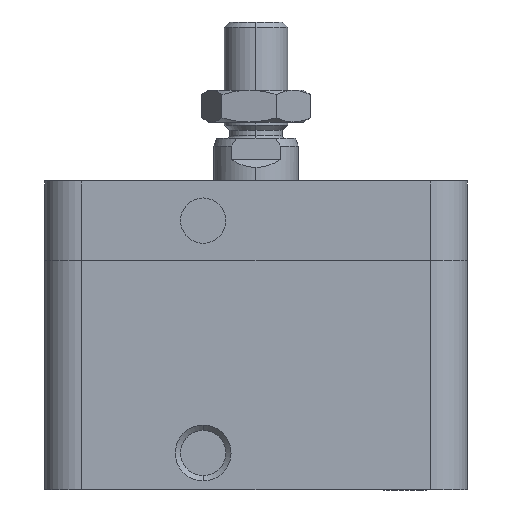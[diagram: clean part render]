
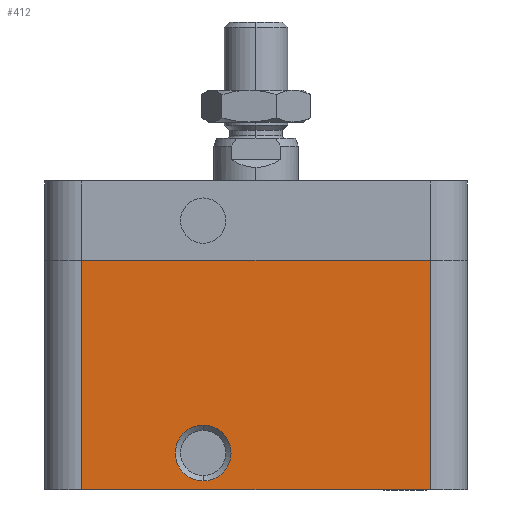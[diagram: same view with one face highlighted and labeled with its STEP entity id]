
A CAD part, left-side view. The second image highlights one B-rep face of the part: STEP entity #412.
In plain terms, the highlighted planar face has unit normal (-1, 0, 0).
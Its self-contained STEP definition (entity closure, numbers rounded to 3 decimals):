
#412 = ADVANCED_FACE ( 'NONE', ( #11638, #1028 ), #6650, .F. ) ;
#546 = LINE ( 'NONE', #12831, #9131 ) ;
#782 = ORIENTED_EDGE ( 'NONE', *, *, #8784, .T. ) ;
#829 = ORIENTED_EDGE ( 'NONE', *, *, #8473, .F. ) ;
#1017 = DIRECTION ( 'NONE',  ( 0., 0., -1. ) ) ;
#1028 = FACE_OUTER_BOUND ( 'NONE', #2125, .T. ) ;
#1075 = VERTEX_POINT ( 'NONE', #13524 ) ;
#1584 = CARTESIAN_POINT ( 'NONE',  ( -40., 10., 7. ) ) ;
#1987 = EDGE_CURVE ( 'NONE', #4899, #1075, #4086, .T. ) ;
#2061 = CARTESIAN_POINT ( 'NONE',  ( -40., -33., 43.5 ) ) ;
#2125 = EDGE_LOOP ( 'NONE', ( #6041, #829, #12459, #782 ) ) ;
#2241 = CARTESIAN_POINT ( 'NONE',  ( -40., 33., 43.5 ) ) ;
#2305 = CARTESIAN_POINT ( 'NONE',  ( -40., 10., 12.283 ) ) ;
#2358 = DIRECTION ( 'NONE',  ( -1., 0., 0. ) ) ;
#2680 = DIRECTION ( 'NONE',  ( -1., 0., 0. ) ) ;
#2826 = VECTOR ( 'NONE', #14932, 1000. ) ;
#3536 = VERTEX_POINT ( 'NONE', #10896 ) ;
#4086 = LINE ( 'NONE', #5430, #9034 ) ;
#4662 = VERTEX_POINT ( 'NONE', #2305 ) ;
#4692 = AXIS2_PLACEMENT_3D ( 'NONE', #12598, #10388, #7986 ) ;
#4899 = VERTEX_POINT ( 'NONE', #6188 ) ;
#4917 = ORIENTED_EDGE ( 'NONE', *, *, #7297, .F. ) ;
#5430 = CARTESIAN_POINT ( 'NONE',  ( -40., 33., 43.5 ) ) ;
#5835 = ORIENTED_EDGE ( 'NONE', *, *, #9551, .F. ) ;
#6041 = ORIENTED_EDGE ( 'NONE', *, *, #10168, .F. ) ;
#6116 = CIRCLE ( 'NONE', #7467, 5.283 ) ;
#6188 = CARTESIAN_POINT ( 'NONE',  ( -40., 33., 0. ) ) ;
#6523 = CARTESIAN_POINT ( 'NONE',  ( -40., -40., 0. ) ) ;
#6650 = PLANE ( 'NONE',  #4692 ) ;
#7297 = EDGE_CURVE ( 'NONE', #14479, #4662, #6116, .T. ) ;
#7467 = AXIS2_PLACEMENT_3D ( 'NONE', #1584, #2680, #13195 ) ;
#7893 = CIRCLE ( 'NONE', #9623, 5.283 ) ;
#7986 = DIRECTION ( 'NONE',  ( 0., 1., 0. ) ) ;
#8170 = CARTESIAN_POINT ( 'NONE',  ( -40., 10., 1.717 ) ) ;
#8473 = EDGE_CURVE ( 'NONE', #1075, #12071, #13970, .T. ) ;
#8784 = EDGE_CURVE ( 'NONE', #4899, #3536, #9204, .T. ) ;
#9034 = VECTOR ( 'NONE', #9862, 1000. ) ;
#9131 = VECTOR ( 'NONE', #1017, 1000. ) ;
#9204 = LINE ( 'NONE', #6523, #11028 ) ;
#9551 = EDGE_CURVE ( 'NONE', #4662, #14479, #7893, .T. ) ;
#9623 = AXIS2_PLACEMENT_3D ( 'NONE', #12756, #2358, #10455 ) ;
#9862 = DIRECTION ( 'NONE',  ( 0., 0., 1. ) ) ;
#10168 = EDGE_CURVE ( 'NONE', #12071, #3536, #546, .T. ) ;
#10388 = DIRECTION ( 'NONE',  ( 1., 0., 0. ) ) ;
#10455 = DIRECTION ( 'NONE',  ( 0., 0., 1. ) ) ;
#10896 = CARTESIAN_POINT ( 'NONE',  ( -40., -33., 0. ) ) ;
#11028 = VECTOR ( 'NONE', #13431, 1000. ) ;
#11638 = FACE_BOUND ( 'NONE', #11983, .T. ) ;
#11983 = EDGE_LOOP ( 'NONE', ( #5835, #4917 ) ) ;
#12071 = VERTEX_POINT ( 'NONE', #2061 ) ;
#12459 = ORIENTED_EDGE ( 'NONE', *, *, #1987, .F. ) ;
#12598 = CARTESIAN_POINT ( 'NONE',  ( -40., 40., 43.5 ) ) ;
#12756 = CARTESIAN_POINT ( 'NONE',  ( -40., 10., 7. ) ) ;
#12831 = CARTESIAN_POINT ( 'NONE',  ( -40., -33., 43.5 ) ) ;
#13195 = DIRECTION ( 'NONE',  ( 0., 0., 1. ) ) ;
#13431 = DIRECTION ( 'NONE',  ( 0., -1., 0. ) ) ;
#13524 = CARTESIAN_POINT ( 'NONE',  ( -40., 33., 43.5 ) ) ;
#13970 = LINE ( 'NONE', #2241, #2826 ) ;
#14479 = VERTEX_POINT ( 'NONE', #8170 ) ;
#14932 = DIRECTION ( 'NONE',  ( 0., -1., 0. ) ) ;
